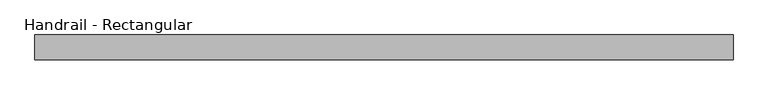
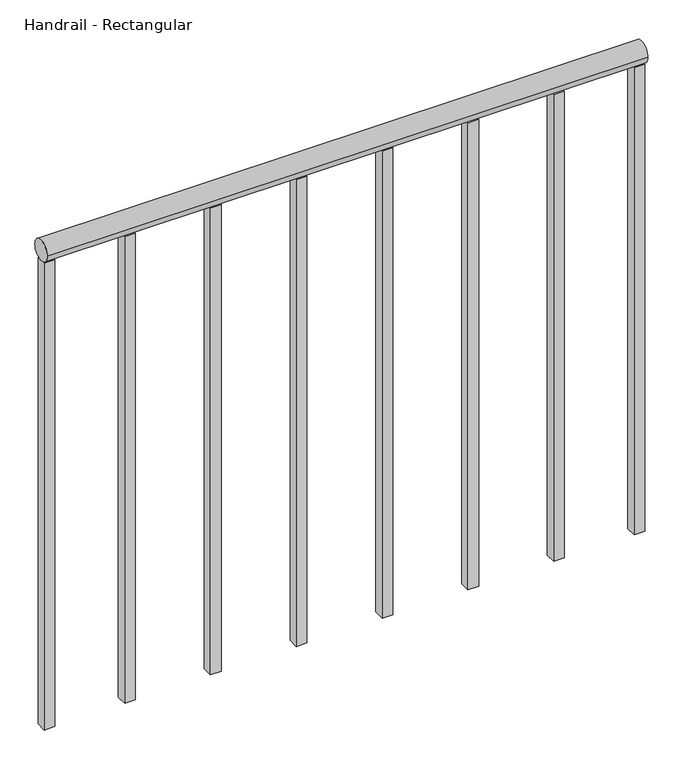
"""IFC4 building model written with IfcOpenShell, lengths in millimetres: railing geometry, Handrail - Rectangular."""

from ifc_helpers import new_model, si_unit, point, frame, frame_2d, origin, place, context, project, spatial, polyline, circle_curve, trimmed, segment, composite_curve, outline, extrude, source, transform, mapped, element, save


def handrail_rectangular_2615ea70(model_context):
    return source(origin(), model_context, "Body", "SweptSolid", [
        extrude(outline(composite_curve([segment(trimmed(circle_curve(frame_2d((11944.8316867, 10039.35)), 19.05), [point((11963.8816867, 10039.35))], [point((11925.7816867, 10039.35))], False, "CARTESIAN"), True, "CONTINUOUS"), segment(trimmed(circle_curve(frame_2d((11944.8316867, 10039.35)), 19.05), [point((11925.7816867, 10039.35))], [point((11963.8816867, 10039.35))], False, "CARTESIAN"), True, "CONTINUOUS")], self_intersect=False)), frame((1027.1410437, 0.0, 0.0), z_axis=(1.0, 0.0, 0.0), x_axis=(0.0, 1.0, 0.0)), (0.0, 0.0, 1.0), 1066.8),
        extrude(outline(polyline([(1932.0160437, 11935.3066867), (1932.0160437, 11954.3566867), (1951.0660437, 11954.3566867), (1951.0660437, 11935.3066867), (1932.0160437, 11935.3066867)])), frame((0.0, 0.0, 9144.0), z_axis=(0.0, 0.0, 1.0), x_axis=(1.0, 0.0, 0.0)), (0.0, 0.0, 1.0), 876.3),
        extrude(outline(polyline([(1779.6160437, 11935.3066867), (1779.6160437, 11954.3566867), (1798.6660437, 11954.3566867), (1798.6660437, 11935.3066867), (1779.6160437, 11935.3066867)])), frame((0.0, 0.0, 9144.0), z_axis=(0.0, 0.0, 1.0), x_axis=(1.0, 0.0, 0.0)), (0.0, 0.0, 1.0), 876.3),
        extrude(outline(polyline([(1627.2160437, 11935.3066867), (1627.2160437, 11954.3566867), (1646.2660437, 11954.3566867), (1646.2660437, 11935.3066867), (1627.2160437, 11935.3066867)])), frame((0.0, 0.0, 9144.0), z_axis=(0.0, 0.0, 1.0), x_axis=(1.0, 0.0, 0.0)), (0.0, 0.0, 1.0), 876.3),
        extrude(outline(polyline([(1474.8160437, 11935.3066867), (1474.8160437, 11954.3566867), (1493.8660437, 11954.3566867), (1493.8660437, 11935.3066867), (1474.8160437, 11935.3066867)])), frame((0.0, 0.0, 9144.0), z_axis=(0.0, 0.0, 1.0), x_axis=(1.0, 0.0, 0.0)), (0.0, 0.0, 1.0), 876.3),
        extrude(outline(polyline([(1322.4160437, 11935.3066867), (1322.4160437, 11954.3566867), (1341.4660437, 11954.3566867), (1341.4660437, 11935.3066867), (1322.4160437, 11935.3066867)])), frame((0.0, 0.0, 9144.0), z_axis=(0.0, 0.0, 1.0), x_axis=(1.0, 0.0, 0.0)), (0.0, 0.0, 1.0), 876.3),
        extrude(outline(polyline([(1170.0160437, 11935.3066867), (1170.0160437, 11954.3566867), (1189.0660437, 11954.3566867), (1189.0660437, 11935.3066867), (1170.0160437, 11935.3066867)])), frame((0.0, 0.0, 9144.0), z_axis=(0.0, 0.0, 1.0), x_axis=(1.0, 0.0, 0.0)), (0.0, 0.0, 1.0), 876.3),
        extrude(outline(polyline([(2074.8910437, 11935.3066867), (2074.8910437, 11954.3566867), (2093.9410437, 11954.3566867), (2093.9410437, 11935.3066867), (2074.8910437, 11935.3066867)])), frame((0.0, 0.0, 9144.0), z_axis=(0.0, 0.0, 1.0), x_axis=(1.0, 0.0, 0.0)), (0.0, 0.0, 1.0), 876.3),
        extrude(outline(polyline([(1027.1410437, 11935.3066867), (1027.1410437, 11954.3566867), (1046.1910437, 11954.3566867), (1046.1910437, 11935.3066867), (1027.1410437, 11935.3066867)])), frame((0.0, 0.0, 9144.0), z_axis=(0.0, 0.0, 1.0), x_axis=(1.0, 0.0, 0.0)), (0.0, 0.0, 1.0), 876.3),
    ])


if __name__ == "__main__":
    model = new_model("IFC4")
    model_context = context("Model", 3, world=origin())
    ifc_project = project(units=[si_unit("LENGTHUNIT", "METRE", prefix="MILLI")], contexts=[model_context])
    site = spatial("IfcSite", under=ifc_project)
    building = spatial("IfcBuilding", under=site)
    placement = place(None, origin())
    handrail_rectangular_shape = handrail_rectangular_2615ea70(model_context)
    element("IfcRailing", 1, ObjectType="Handrail - Rectangular", at=placement, inside=building, context=model_context, shape_type="MappedRepresentation", body=[
        mapped(handrail_rectangular_shape, transform((0.0, 0.0, 0.0), x_axis=(1.0, 0.0, 0.0), y_axis=(0.0, 1.0, 0.0), z_axis=(0.0, 0.0, 1.0))),
    ])
    save(model, "model.ifc")
